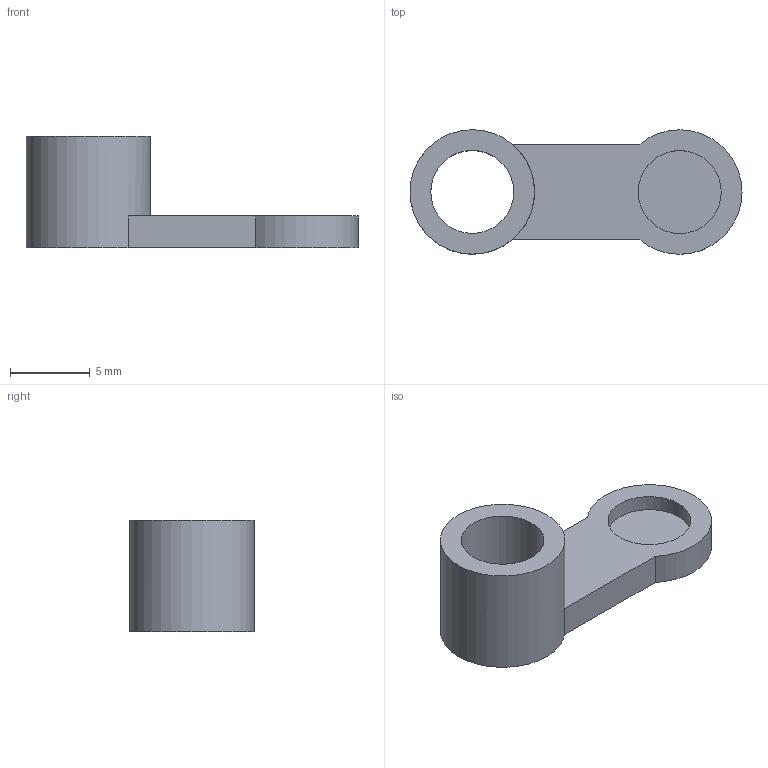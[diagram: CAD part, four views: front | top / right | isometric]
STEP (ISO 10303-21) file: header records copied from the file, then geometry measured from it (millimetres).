
FILE_DESCRIPTION(/* description */ ('','CAx-IF Rec.Pracs.---Representation and Presentation of Product Manufacturing Information (PMI)---4.0---2014-10-13'),/* implementation_level */ '2;1');
FILE_NAME(/* name */ 'Spinner.step',/* time_stamp */ '2025-03-26T12:34:18+05:00',/* author */ (''),/* organization */ (''),/* preprocessor_version */ 'ST-DEVELOPER v20',/* originating_system */ 'Autodesk Translation Framework v13.20.0.188',/* authorisation */ '');
FILE_SCHEMA (('AP242_MANAGED_MODEL_BASED_3D_ENGINEERING_MIM_LF { 1 0 10303 442 1 1 4 }'));
Length unit declared in the file: millimetre
Products named in the file (1): Spinner
Bounding box: 20.8 x 7.8 x 7 mm (x, y, z)
Volume: 332.9 mm3; surface area: 577.3 mm2
Topology: 1 solids, 1 shells, 10 faces, 21 edges, 14 vertices
Faces by surface type: plane 6, cylinder 4
Full cylindrical faces by diameter (mm): 5.2 x2, 7.8 x1
Entity records: 312 total; most frequent: DIRECTION 53, CARTESIAN_POINT 46, ORIENTED_EDGE 42, EDGE_CURVE 21, AXIS2_PLACEMENT_3D 21, VERTEX_POINT 14, EDGE_LOOP 13, LINE 11
